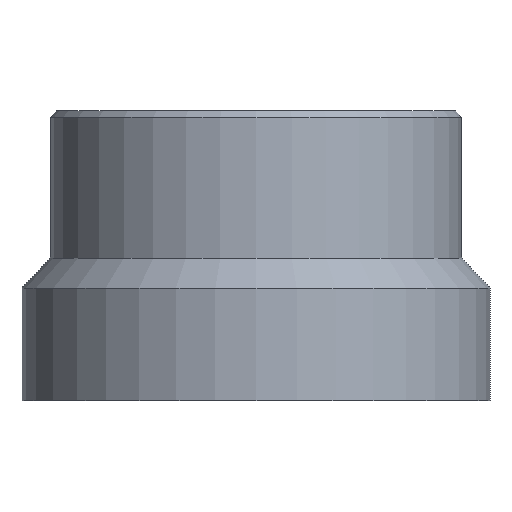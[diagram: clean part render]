
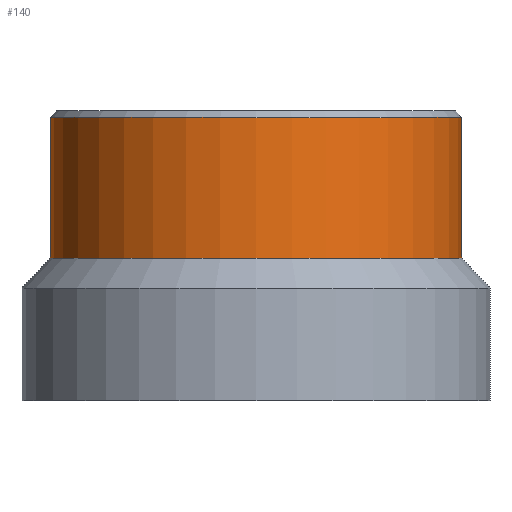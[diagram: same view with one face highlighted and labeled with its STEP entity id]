
A CAD part, front view. The second image highlights one B-rep face of the part: STEP entity #140.
In plain terms, the highlighted cylindrical face has radius 20.55 mm (diameter 41.1 mm), a full revolution.
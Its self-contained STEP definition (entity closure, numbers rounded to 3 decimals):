
#74 = CONICAL_SURFACE('',#75,19.95,0.745);
#75 = AXIS2_PLACEMENT_3D('',#76,#77,#78);
#76 = CARTESIAN_POINT('',(0.,0.,0.));
#77 = DIRECTION('',(-0.,-0.,-1.));
#78 = DIRECTION('',(1.,0.,0.));
#91 = VERTEX_POINT('',#92);
#92 = CARTESIAN_POINT('',(20.55,0.,-0.65));
#113 = EDGE_CURVE('',#91,#91,#114,.T.);
#114 = SURFACE_CURVE('',#115,(#120,#127),.PCURVE_S1.);
#115 = CIRCLE('',#116,20.55);
#116 = AXIS2_PLACEMENT_3D('',#117,#118,#119);
#117 = CARTESIAN_POINT('',(0.,0.,-0.65));
#118 = DIRECTION('',(0.,0.,1.));
#119 = DIRECTION('',(1.,0.,-0.));
#120 = PCURVE('',#74,#121);
#121 = DEFINITIONAL_REPRESENTATION('',(#122),#126);
#122 = LINE('',#123,#124);
#123 = CARTESIAN_POINT('',(-0.,0.65));
#124 = VECTOR('',#125,1.);
#125 = DIRECTION('',(-1.,0.));
#126 = ( GEOMETRIC_REPRESENTATION_CONTEXT(2) 
PARAMETRIC_REPRESENTATION_CONTEXT() REPRESENTATION_CONTEXT('2D SPACE',''
  ) );
#127 = PCURVE('',#128,#133);
#128 = CYLINDRICAL_SURFACE('',#129,20.55);
#129 = AXIS2_PLACEMENT_3D('',#130,#131,#132);
#130 = CARTESIAN_POINT('',(0.,0.,-0.65));
#131 = DIRECTION('',(-0.,-0.,-1.));
#132 = DIRECTION('',(1.,0.,0.));
#133 = DEFINITIONAL_REPRESENTATION('',(#134),#138);
#134 = LINE('',#135,#136);
#135 = CARTESIAN_POINT('',(-0.,0.));
#136 = VECTOR('',#137,1.);
#137 = DIRECTION('',(-1.,0.));
#138 = ( GEOMETRIC_REPRESENTATION_CONTEXT(2) 
PARAMETRIC_REPRESENTATION_CONTEXT() REPRESENTATION_CONTEXT('2D SPACE',''
  ) );
#140 = ADVANCED_FACE('',(#141),#128,.T.);
#141 = FACE_BOUND('',#142,.F.);
#142 = EDGE_LOOP('',(#143,#144,#167,#194));
#143 = ORIENTED_EDGE('',*,*,#113,.T.);
#144 = ORIENTED_EDGE('',*,*,#145,.T.);
#145 = EDGE_CURVE('',#91,#146,#148,.T.);
#146 = VERTEX_POINT('',#147);
#147 = CARTESIAN_POINT('',(20.55,0.,-14.7));
#148 = SEAM_CURVE('',#149,(#153,#160),.PCURVE_S1.);
#149 = LINE('',#150,#151);
#150 = CARTESIAN_POINT('',(20.55,0.,-0.65));
#151 = VECTOR('',#152,1.);
#152 = DIRECTION('',(0.,0.,-1.));
#153 = PCURVE('',#128,#154);
#154 = DEFINITIONAL_REPRESENTATION('',(#155),#159);
#155 = LINE('',#156,#157);
#156 = CARTESIAN_POINT('',(-0.,0.));
#157 = VECTOR('',#158,1.);
#158 = DIRECTION('',(-0.,1.));
#159 = ( GEOMETRIC_REPRESENTATION_CONTEXT(2) 
PARAMETRIC_REPRESENTATION_CONTEXT() REPRESENTATION_CONTEXT('2D SPACE',''
  ) );
#160 = PCURVE('',#128,#161);
#161 = DEFINITIONAL_REPRESENTATION('',(#162),#166);
#162 = LINE('',#163,#164);
#163 = CARTESIAN_POINT('',(-6.283,0.));
#164 = VECTOR('',#165,1.);
#165 = DIRECTION('',(-0.,1.));
#166 = ( GEOMETRIC_REPRESENTATION_CONTEXT(2) 
PARAMETRIC_REPRESENTATION_CONTEXT() REPRESENTATION_CONTEXT('2D SPACE',''
  ) );
#167 = ORIENTED_EDGE('',*,*,#168,.F.);
#168 = EDGE_CURVE('',#146,#146,#169,.T.);
#169 = SURFACE_CURVE('',#170,(#175,#182),.PCURVE_S1.);
#170 = CIRCLE('',#171,20.55);
#171 = AXIS2_PLACEMENT_3D('',#172,#173,#174);
#172 = CARTESIAN_POINT('',(0.,0.,-14.7));
#173 = DIRECTION('',(0.,0.,1.));
#174 = DIRECTION('',(1.,0.,-0.));
#175 = PCURVE('',#128,#176);
#176 = DEFINITIONAL_REPRESENTATION('',(#177),#181);
#177 = LINE('',#178,#179);
#178 = CARTESIAN_POINT('',(-0.,14.05));
#179 = VECTOR('',#180,1.);
#180 = DIRECTION('',(-1.,0.));
#181 = ( GEOMETRIC_REPRESENTATION_CONTEXT(2) 
PARAMETRIC_REPRESENTATION_CONTEXT() REPRESENTATION_CONTEXT('2D SPACE',''
  ) );
#182 = PCURVE('',#183,#188);
#183 = CONICAL_SURFACE('',#184,20.55,0.76);
#184 = AXIS2_PLACEMENT_3D('',#185,#186,#187);
#185 = CARTESIAN_POINT('',(0.,0.,-14.7));
#186 = DIRECTION('',(-0.,-0.,-1.));
#187 = DIRECTION('',(1.,0.,0.));
#188 = DEFINITIONAL_REPRESENTATION('',(#189),#193);
#189 = LINE('',#190,#191);
#190 = CARTESIAN_POINT('',(-0.,0.));
#191 = VECTOR('',#192,1.);
#192 = DIRECTION('',(-1.,0.));
#193 = ( GEOMETRIC_REPRESENTATION_CONTEXT(2) 
PARAMETRIC_REPRESENTATION_CONTEXT() REPRESENTATION_CONTEXT('2D SPACE',''
  ) );
#194 = ORIENTED_EDGE('',*,*,#145,.F.);
